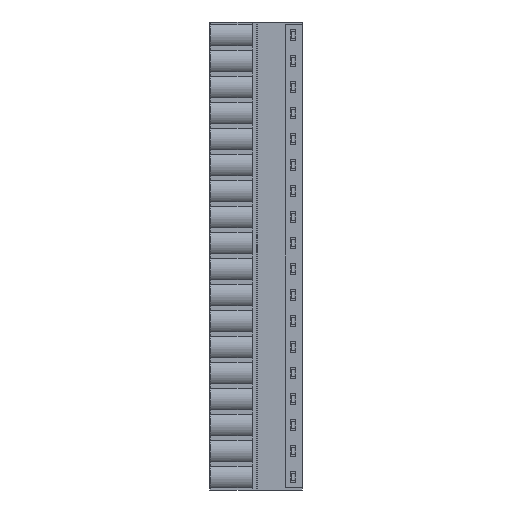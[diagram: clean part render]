
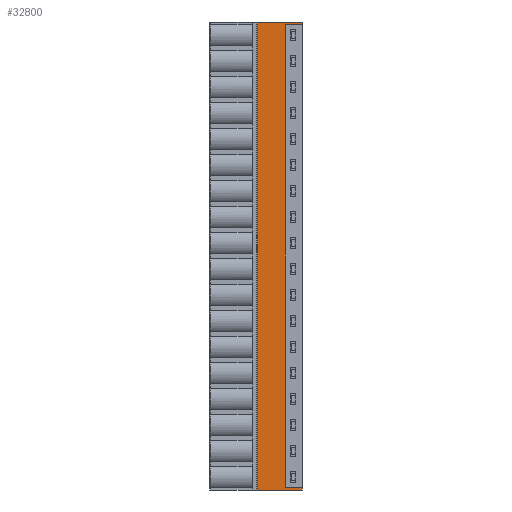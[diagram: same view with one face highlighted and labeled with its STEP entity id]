
A CAD part, left-side view. The second image highlights one B-rep face of the part: STEP entity #32800.
In plain terms, the highlighted planar face has unit normal (-1, 0, 0).
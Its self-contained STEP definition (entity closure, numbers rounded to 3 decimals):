
#1613 = B_SPLINE_CURVE_WITH_KNOTS ( 'NONE', 3,
 ( #24768, #58118, #24047, #8111 ),
 .UNSPECIFIED., .F., .F.,
 ( 4, 4 ),
 ( 0., 1. ),
 .UNSPECIFIED. ) ;
#1833 = CARTESIAN_POINT ( 'NONE',  ( -3.9, 3.167, 0.492 ) ) ;
#2454 = CARTESIAN_POINT ( 'NONE',  ( -3.9, 8.8, 91.44 ) ) ;
#2513 = ORIENTED_EDGE ( 'NONE', *, *, #58946, .F. ) ;
#3269 = LINE ( 'NONE', #58822, #64389 ) ;
#3547 = CARTESIAN_POINT ( 'NONE',  ( -3.9, 0., 91.44 ) ) ;
#4090 = CARTESIAN_POINT ( 'NONE',  ( -3.9, 0.967, 0.49 ) ) ;
#5116 = VECTOR ( 'NONE', #33030, 1000. ) ;
#7355 = EDGE_CURVE ( 'NONE', #16805, #61315, #72890, .T. ) ;
#8111 = CARTESIAN_POINT ( 'NONE',  ( -3.9, 0., 90.95 ) ) ;
#10322 = CARTESIAN_POINT ( 'NONE',  ( -3.9, 8.8, 0. ) ) ;
#11414 = AXIS2_PLACEMENT_3D ( 'NONE', #20021, #31110, #52253 ) ;
#12953 = VECTOR ( 'NONE', #21800, 1000. ) ;
#13050 = VERTEX_POINT ( 'NONE', #68179 ) ;
#13238 = CARTESIAN_POINT ( 'NONE',  ( -3.9, 3.167, 90.948 ) ) ;
#15184 = CARTESIAN_POINT ( 'NONE',  ( -3.9, 0., 0.49 ) ) ;
#16805 = VERTEX_POINT ( 'NONE', #37187 ) ;
#16984 = EDGE_CURVE ( 'NONE', #25276, #16805, #36563, .T. ) ;
#17682 = VECTOR ( 'NONE', #25023, 1000. ) ;
#18503 = CARTESIAN_POINT ( 'NONE',  ( -3.9, 0., 91.44 ) ) ;
#20021 = CARTESIAN_POINT ( 'NONE',  ( -3.9, 8.9, 0. ) ) ;
#20267 = CARTESIAN_POINT ( 'NONE',  ( -3.9, 8.8, 91.44 ) ) ;
#20584 = VERTEX_POINT ( 'NONE', #22193 ) ;
#21183 = CARTESIAN_POINT ( 'NONE',  ( -3.9, 8.8, 91.44 ) ) ;
#21575 = LINE ( 'NONE', #61192, #5116 ) ;
#21800 = DIRECTION ( 'NONE',  ( 0., -1., 0. ) ) ;
#22193 = CARTESIAN_POINT ( 'NONE',  ( -3.9, 3.3, 90.948 ) ) ;
#22816 = ORIENTED_EDGE ( 'NONE', *, *, #7355, .T. ) ;
#23599 = ORIENTED_EDGE ( 'NONE', *, *, #37720, .F. ) ;
#24021 = EDGE_CURVE ( 'NONE', #20584, #61898, #59585, .T. ) ;
#24047 = CARTESIAN_POINT ( 'NONE',  ( -3.9, 0.967, 90.95 ) ) ;
#24768 = CARTESIAN_POINT ( 'NONE',  ( -3.9, 2.9, 90.95 ) ) ;
#25023 = DIRECTION ( 'NONE',  ( 0., -1., 0. ) ) ;
#25276 = VERTEX_POINT ( 'NONE', #21183 ) ;
#25422 = CARTESIAN_POINT ( 'NONE',  ( -3.9, 0., 0. ) ) ;
#25944 = EDGE_CURVE ( 'NONE', #13050, #68403, #27431, .T. ) ;
#26681 = ORIENTED_EDGE ( 'NONE', *, *, #27176, .T. ) ;
#27065 = B_SPLINE_CURVE_WITH_KNOTS ( 'NONE', 3,
 ( #38862, #72943, #4090, #15184 ),
 .UNSPECIFIED., .F., .F.,
 ( 4, 4 ),
 ( 0., 1. ),
 .UNSPECIFIED. ) ;
#27176 = EDGE_CURVE ( 'NONE', #61898, #34747, #1613, .T. ) ;
#27431 = B_SPLINE_CURVE_WITH_KNOTS ( 'NONE', 3,
 ( #69561, #1833, #70917, #57367 ),
 .UNSPECIFIED., .F., .F.,
 ( 4, 4 ),
 ( 0., 1. ),
 .UNSPECIFIED. ) ;
#30031 = PLANE ( 'NONE',  #11414 ) ;
#31110 = DIRECTION ( 'NONE',  ( -1., 0., 0. ) ) ;
#31140 = VECTOR ( 'NONE', #66095, 1000. ) ;
#32800 = ADVANCED_FACE ( 'NONE', ( #64100 ), #30031, .T. ) ;
#33030 = DIRECTION ( 'NONE',  ( 0., 0., -1. ) ) ;
#34747 = VERTEX_POINT ( 'NONE', #53183 ) ;
#35206 = ORIENTED_EDGE ( 'NONE', *, *, #24021, .T. ) ;
#36563 = LINE ( 'NONE', #20267, #54767 ) ;
#37187 = CARTESIAN_POINT ( 'NONE',  ( -3.9, 8.8, 0. ) ) ;
#37720 = EDGE_CURVE ( 'NONE', #72009, #61315, #21575, .T. ) ;
#38862 = CARTESIAN_POINT ( 'NONE',  ( -3.9, 2.9, 0.49 ) ) ;
#39668 = EDGE_CURVE ( 'NONE', #40234, #34747, #44884, .T. ) ;
#40234 = VERTEX_POINT ( 'NONE', #18503 ) ;
#41354 = CARTESIAN_POINT ( 'NONE',  ( -3.9, 3.033, 90.949 ) ) ;
#43702 = CARTESIAN_POINT ( 'NONE',  ( -3.9, 2.9, 0.49 ) ) ;
#44884 = LINE ( 'NONE', #3547, #31140 ) ;
#45929 = ORIENTED_EDGE ( 'NONE', *, *, #16984, .T. ) ;
#46911 = CARTESIAN_POINT ( 'NONE',  ( -3.9, 3.3, 90.948 ) ) ;
#47301 = DIRECTION ( 'NONE',  ( 0., 0., -1. ) ) ;
#47357 = EDGE_CURVE ( 'NONE', #68403, #72009, #27065, .T. ) ;
#52253 = DIRECTION ( 'NONE',  ( 0., 0., 1. ) ) ;
#52318 = CARTESIAN_POINT ( 'NONE',  ( -3.9, 2.9, 90.95 ) ) ;
#53183 = CARTESIAN_POINT ( 'NONE',  ( -3.9, 0., 90.95 ) ) ;
#54331 = DIRECTION ( 'NONE',  ( 0., 0., -1. ) ) ;
#54767 = VECTOR ( 'NONE', #47301, 1000. ) ;
#57367 = CARTESIAN_POINT ( 'NONE',  ( -3.9, 2.9, 0.49 ) ) ;
#58118 = CARTESIAN_POINT ( 'NONE',  ( -3.9, 1.933, 90.95 ) ) ;
#58822 = CARTESIAN_POINT ( 'NONE',  ( -3.9, 3.3, 90.948 ) ) ;
#58946 = EDGE_CURVE ( 'NONE', #25276, #40234, #69833, .T. ) ;
#59585 = B_SPLINE_CURVE_WITH_KNOTS ( 'NONE', 3,
 ( #46911, #13238, #41354, #63962 ),
 .UNSPECIFIED., .F., .F.,
 ( 4, 4 ),
 ( 0., 1. ),
 .UNSPECIFIED. ) ;
#61192 = CARTESIAN_POINT ( 'NONE',  ( -3.9, 0., 0.49 ) ) ;
#61315 = VERTEX_POINT ( 'NONE', #25422 ) ;
#61898 = VERTEX_POINT ( 'NONE', #52318 ) ;
#63224 = EDGE_LOOP ( 'NONE', ( #22816, #23599, #72131, #63568, #68289, #35206, #26681, #69714, #2513, #45929 ) ) ;
#63568 = ORIENTED_EDGE ( 'NONE', *, *, #25944, .F. ) ;
#63962 = CARTESIAN_POINT ( 'NONE',  ( -3.9, 2.9, 90.95 ) ) ;
#64100 = FACE_OUTER_BOUND ( 'NONE', #63224, .T. ) ;
#64389 = VECTOR ( 'NONE', #54331, 1000. ) ;
#65226 = EDGE_CURVE ( 'NONE', #20584, #13050, #3269, .T. ) ;
#66095 = DIRECTION ( 'NONE',  ( 0., 0., -1. ) ) ;
#68179 = CARTESIAN_POINT ( 'NONE',  ( -3.9, 3.3, 0.492 ) ) ;
#68289 = ORIENTED_EDGE ( 'NONE', *, *, #65226, .F. ) ;
#68403 = VERTEX_POINT ( 'NONE', #43702 ) ;
#69371 = CARTESIAN_POINT ( 'NONE',  ( -3.9, 0., 0.49 ) ) ;
#69561 = CARTESIAN_POINT ( 'NONE',  ( -3.9, 3.3, 0.492 ) ) ;
#69714 = ORIENTED_EDGE ( 'NONE', *, *, #39668, .F. ) ;
#69833 = LINE ( 'NONE', #2454, #17682 ) ;
#70917 = CARTESIAN_POINT ( 'NONE',  ( -3.9, 3.033, 0.491 ) ) ;
#72009 = VERTEX_POINT ( 'NONE', #69371 ) ;
#72131 = ORIENTED_EDGE ( 'NONE', *, *, #47357, .F. ) ;
#72890 = LINE ( 'NONE', #10322, #12953 ) ;
#72943 = CARTESIAN_POINT ( 'NONE',  ( -3.9, 1.933, 0.49 ) ) ;
